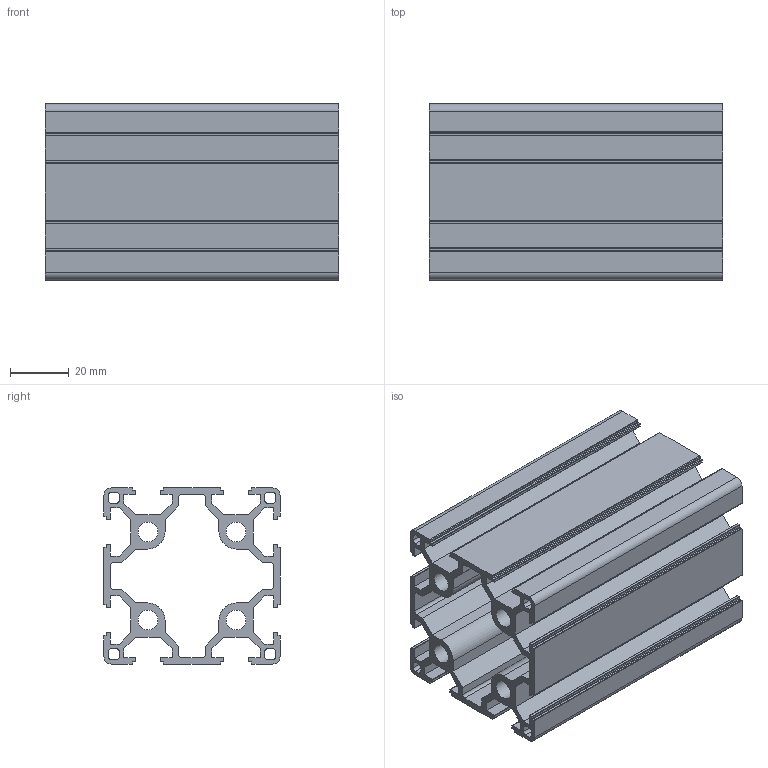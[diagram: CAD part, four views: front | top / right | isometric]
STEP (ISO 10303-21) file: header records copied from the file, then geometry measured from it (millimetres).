
FILE_DESCRIPTION(('STEP AP214'), '1');
FILE_NAME('Ïðîôèëü àëþìèíèåâûé HXB6060E-8', '', ('UNSPECIFIED'), ('UNSPECIFIED'), 'ASCON STEP Converter 1.6', 'ASCON Math Kernel', '');
FILE_SCHEMA(('AUTOMOTIVE_DESIGN { 1 0 10303 214 3 1 1}'));
Length unit declared in the file: millimetre
Bounding box: 100 x 60 x 60 mm (x, y, z)
Volume: 93581.7 mm3; surface area: 81718.9 mm2
Topology: 1 solids, 1 shells, 262 faces, 780 edges, 520 vertices
Faces by surface type: plane 162, cylinder 100
Full cylindrical faces by diameter (mm): 6.8 x4
Entity records: 10960 total; most frequent: CARTESIAN_POINT 1559, ORIENTED_EDGE 1552, DIRECTION 1502, EDGE_CURVE 776, LINE 576, VECTOR 576, VERTEX_POINT 520, AXIS2_PLACEMENT_3D 463
